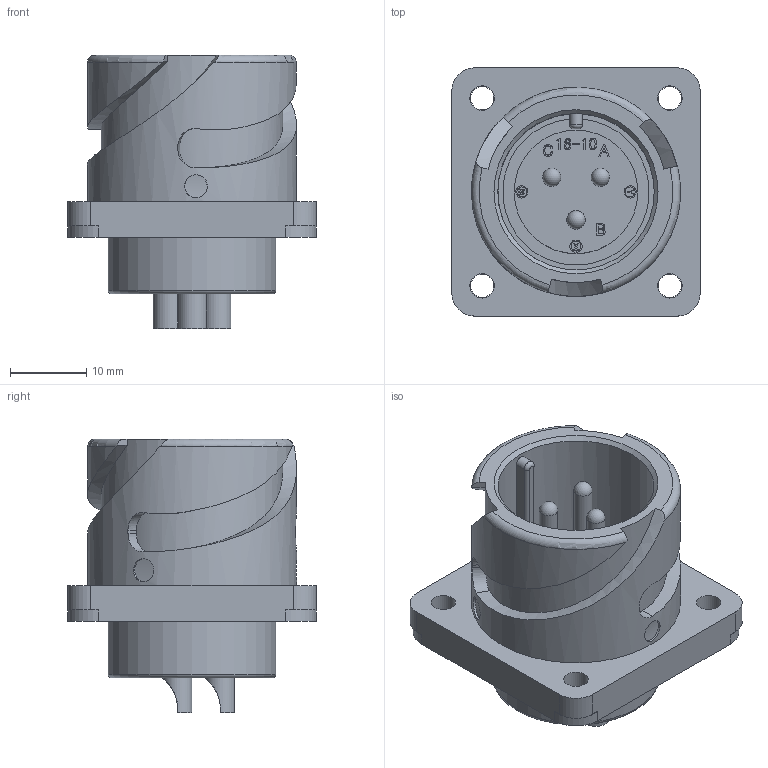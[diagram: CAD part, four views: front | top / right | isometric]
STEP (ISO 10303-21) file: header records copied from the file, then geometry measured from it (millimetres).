
FILE_DESCRIPTION (( 'STEP AP203' ), '1' );
FILE_NAME ('DCA3102R16-10P-D(R1).STEP', '2021-12-22T09:21:10', ( '' ), ( '' ), 'SwSTEP 2.0', 'SolidWorks 2018', '' );
FILE_SCHEMA (( 'CONFIG_CONTROL_DESIGN' ));
Length unit declared in the file: millimetre
Products named in the file (1): DCA3102R16-10P-D(R1)
Bounding box: 32.54 x 32.54 x 35.9 mm (x, y, z)
Volume: 12064.3 mm3; surface area: 7566.3 mm2
Topology: 1 solids, 1 shells, 478 faces, 1266 edges, 843 vertices
Faces by surface type: plane 237, bspline 167, cylinder 58, cone 8, torus 5, sphere 3
Full cylindrical faces by diameter (mm): 1.3 x6, 1.6 x6, 2.4 x3, 2.85 x3, 3.05 x4, 3.2 x4, 3.8 x3, 4.8 x3, 16.2 x1, 19.2 x1, 20.5 x1, 22 x1, 27.4 x1
Entity records: 21289 total; most frequent: CARTESIAN_POINT 10875, ORIENTED_EDGE 2354, DIRECTION 1551, EDGE_CURVE 1177, VERTEX_POINT 809, VECTOR 691, LINE 691, EDGE_LOOP 594
